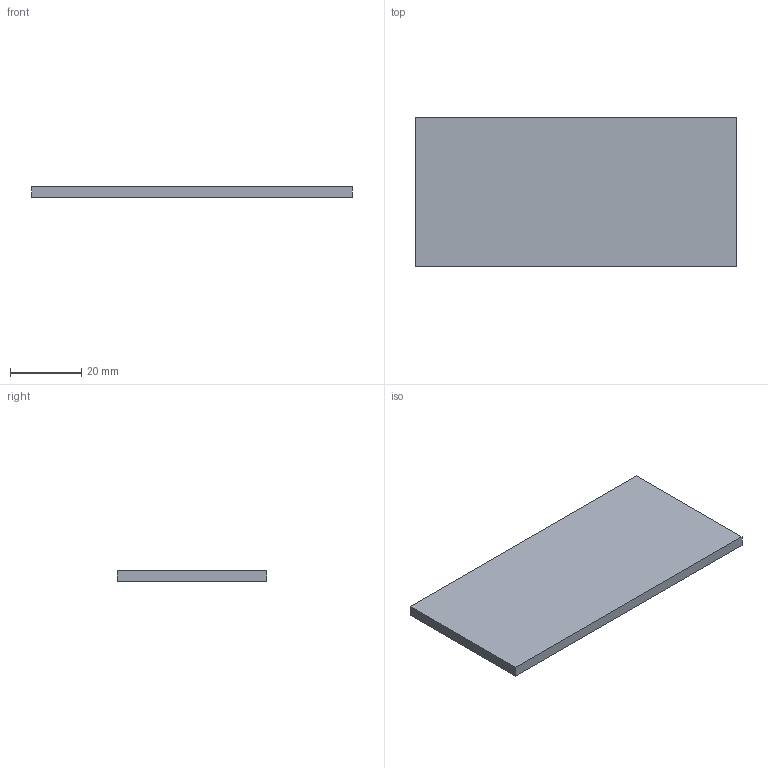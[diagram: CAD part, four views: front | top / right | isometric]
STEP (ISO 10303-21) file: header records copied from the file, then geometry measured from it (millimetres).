
FILE_DESCRIPTION (( 'STEP AP214' ), '1' );
FILE_NAME ('Plastic transparent PP10.STEP', '2017-07-19T09:06:28', ( 'aaa' ), ( '' ), 'SwSTEP 2.0', 'SolidWorks 2013', '' );
FILE_SCHEMA (( 'AUTOMOTIVE_DESIGN' ));
Length unit declared in the file: millimetre
Products named in the file (1): Plastic transparent PP10
Bounding box: 90 x 42 x 3 mm (x, y, z)
Volume: 11340 mm3; surface area: 8352 mm2
Topology: 1 solids, 1 shells, 6 faces, 12 edges, 8 vertices
Faces by surface type: plane 6
Entity records: 190 total; most frequent: CARTESIAN_POINT 27, DIRECTION 26, ORIENTED_EDGE 24, EDGE_CURVE 12, VECTOR 12, LINE 12, VERTEX_POINT 8, AXIS2_PLACEMENT_3D 7
